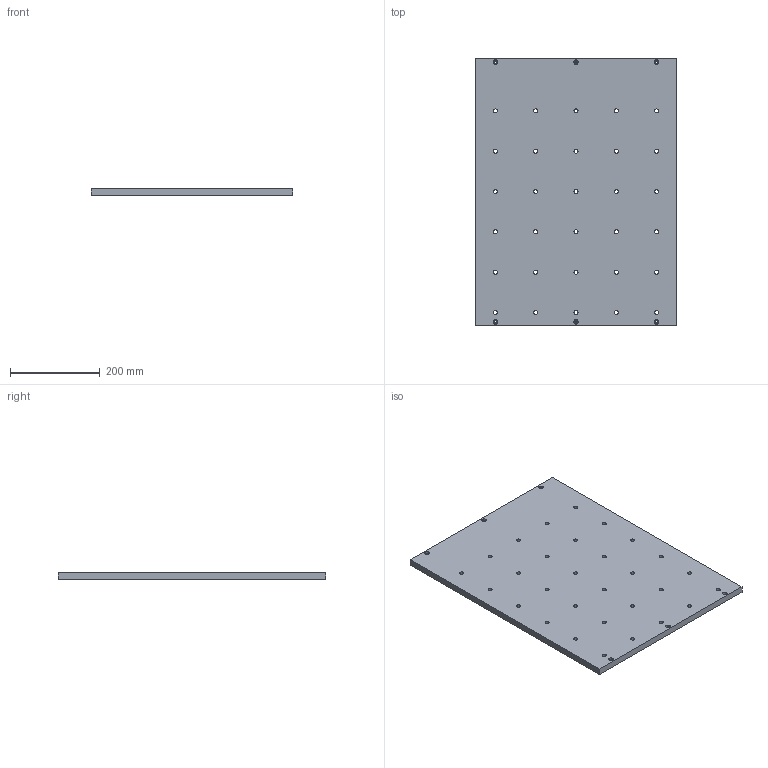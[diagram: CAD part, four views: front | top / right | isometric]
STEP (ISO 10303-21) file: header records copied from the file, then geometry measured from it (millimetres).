
FILE_DESCRIPTION (( 'STEP AP214' ), '1' );
FILE_NAME ('PD雕刻机4040面板【密度板】.STEP', '2024-12-13T05:41:20', ( '' ), ( '' ), 'SwSTEP 2.0', 'SolidWorks 2021', '' );
FILE_SCHEMA (( 'AUTOMOTIVE_DESIGN' ));
Length unit declared in the file: millimetre
Products named in the file (1): PD雕刻机4040面板【密度板】
Bounding box: 450 x 598 x 15 mm (x, y, z)
Volume: 4003959.1 mm3; surface area: 580274.4 mm2
Topology: 1 solids, 1 shells, 96 faces, 264 edges, 176 vertices
Faces by surface type: cylinder 84, plane 12
Entity records: 3334 total; most frequent: DIRECTION 626, CARTESIAN_POINT 537, ORIENTED_EDGE 528, AXIS2_PLACEMENT_3D 265, EDGE_CURVE 264, VERTEX_POINT 176, EDGE_LOOP 174, CIRCLE 168
